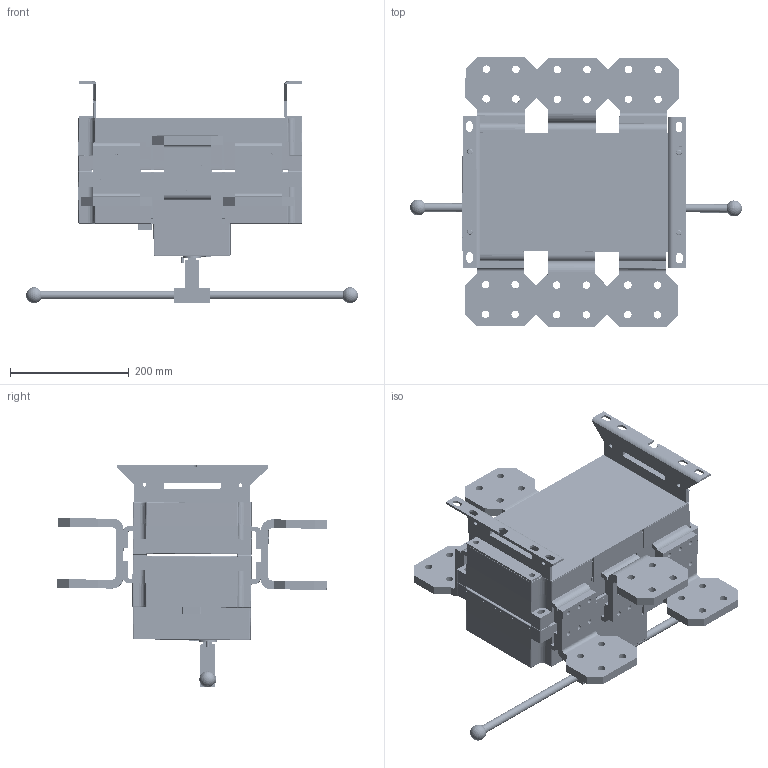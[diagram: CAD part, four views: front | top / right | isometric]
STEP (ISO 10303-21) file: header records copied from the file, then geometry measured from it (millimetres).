
FILE_DESCRIPTION (( 'STEP AP214' ), '1' );
FILE_NAME ('GL-3150-3P norm1.STEP', '2026-01-26T12:57:10', ( '' ), ( '' ), 'SwSTEP 2.0', 'SolidWorks 2024', '' );
FILE_SCHEMA (( 'AUTOMOTIVE_DESIGN' ));
Length unit declared in the file: millimetre
Products named in the file (39): 6X4500_2_1_1_1_2_4.stp_1.STEP; 2500A000_2-84111_1_1_1_3_4.stp_1.STEP; GL-1000000_2-164000_1_1_1_2_4.stp_1.STEP; SHOUBING_7_1_1_2_4.stp_1.STEP; M50001_2_1_1_1_2_4.stp_1.STEP; 000_2_1_1_1_2_4.stp_1.STEP; GL-1000_ASM0002_ASM_2_ASM_1_AS_ASM_4.stp_1.STEP; GL-2000-3_ASM0001_ASM_2_ASM_1__ASM_4.stp_1.STEP; GL-3150-3P.stp_1.STEP; GL-3150-20260122_ASM_1_ASM_2_ASM_4.stp_1.STEP; GL-1000_ASM0003_ASM_2_ASM_1_AS_ASM_4.stp_1.STEP; GL-2000-25003P-202411_ASM_16_AS_ASM_4.stp_1.STEP; HGL-100000_2-163013_1_1_1_2_4.stp_1.STEP; GL-3150-3P norm.STEP; 20241118_7_1_4_4.stp_1.STEP; osn; GL-100000_2-104247_1_1_1_2_4.stp_1.STEP; GL-2000-25003P_ASM_ASM_2_ASM_2__ASM_4.stp_1.STEP; GL-1000000_2-152302_1_1_1_2_4.stp_1.STEP; GL-2000-25003P_ASM_2_ASM_1_ASM__ASM_4.stp_1.STEP; 5X4500_2_1_1_1_2_4.stp_1.STEP; GL-2000_ASM00_ASM_2_ASM_2_ASM__ASM_4.stp_1.STEP; GL-100000_2-201897_1_2_1_2_4.stp_1.STEP; 2500A000_2-22739_1_1_1_2_4.stp_1.STEP; GL-3150-3P norm1; HGL-10000010_2_1_1_1_2_4.stp_1.STEP; GL-3150-20260122_ASM_ASM_2_ASM_4.stp_1.STEP; GL-100000_2-103639_1_1_1_2_4.stp_1.STEP; 2500A00_ASM_2_ASM_1_ASM_1_ASM_1_ASM_4.stp_1.STEP; GL-1000_ASM0004_ASM_2_ASM_1_AS_ASM_4.stp_1.STEP; GL-1000_ASM0005_ASM_2_ASM_1_AS_ASM_4.stp_1.STEP; GL-1000000_2-154330_1_1_1_2_4.stp_1.STEP; GL-2500-300_2_1_2_1_2_4.stp_1.STEP; 5X5500_2_1_1_1_2_4.stp_1.STEP; 6X2000_2_1_1_1_2_4.stp_1.STEP; 4X2000_2_1_1_1_2_4.stp_1.STEP; GL-1000100_2_1_2_1_2_4.stp_1.STEP; M60001_2_1_1_1_2_4.stp_1.STEP; HGL-100000_2-131600_1_1_1_2_4.stp_1.STEP
Assembly tree (122 placements, depth 13):
  GL-3150-3P norm1
    GL-3150-3P norm.STEP
      GL-3150-3P.stp_1.STEP
        GL-3150-20260122_ASM_ASM_2_ASM_4.stp_1.STEP
          GL-3150-20260122_ASM_1_ASM_2_ASM_4.stp_1.STEP
            GL-2000-25003P-202411_ASM_16_AS_ASM_4.stp_1.STEP
              GL-2000-25003P_ASM_ASM_2_ASM_2__ASM_4.stp_1.STEP
                GL-2000-25003P_ASM_2_ASM_1_ASM__ASM_4.stp_1.STEP
                  2500A00_ASM_2_ASM_1_ASM_1_ASM_1_ASM_4.stp_1.STEP
                SHOUBING_7_1_1_2_4.stp_1.STEP
              20241118_7_1_4_4.stp_1.STEP  x6
    osn  x2
Bounding box: 560.08 x 454.8 x 375.63 mm (x, y, z)
Volume: 15995593.4 mm3; surface area: 2122342.8 mm2
Topology: 126 solids, 143 shells, 10209 faces, 29777 edges, 19899 vertices
Faces by surface type: cylinder 5001, plane 3646, bspline 1035, torus 235, cone 161, sphere 131
Full cylindrical faces by diameter (mm): 7 x4, 10.5 x4
Entity records: 177088 total; most frequent: CARTESIAN_POINT 103585, ORIENTED_EDGE 16256, DIRECTION 13117, EDGE_CURVE 8128, VERTEX_POINT 5357, LINE 4655, VECTOR 4655, AXIS2_PLACEMENT_3D 4231
